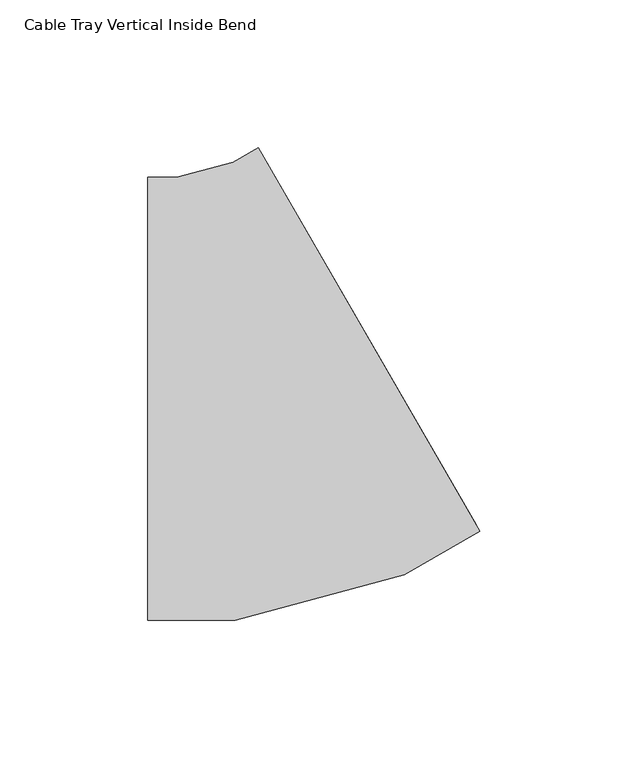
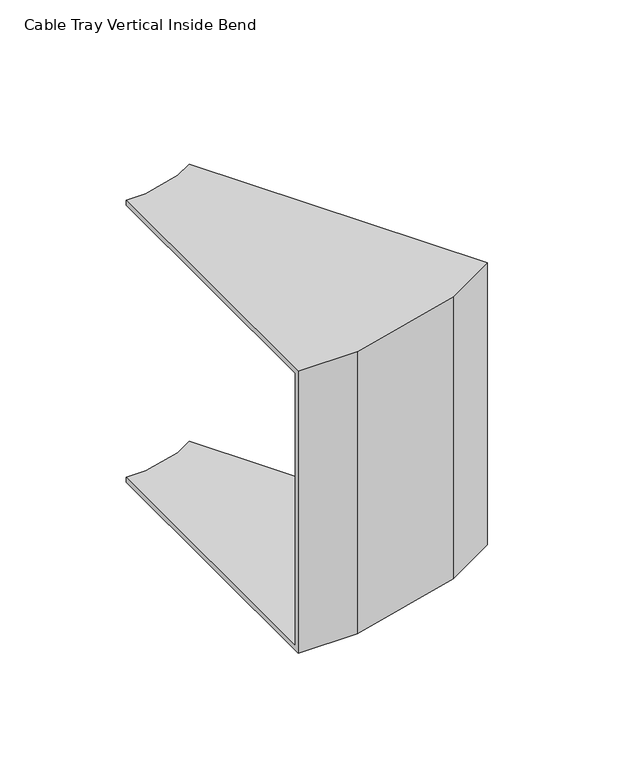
"""IFC4 building model written with IfcOpenShell, lengths in millimetres: cable carrier fitting geometry, Cable Tray Vertical Inside Bend : ELEC_ELV_TKG_N2402."""

from ifc_helpers import new_model, si_unit, origin, place, context, project, spatial, faceted_brep, source, transform, mapped, element, save


def cable_tray_vertical_inside_bend_b78f05e6(model_context):
    return source(origin(), model_context, "Body", "Brep", [
        faceted_brep([(-40.1923789, 75.0, 75.0), (-40.1923789, 75.0, 72.46), (-40.1923789, -72.46, 72.46), (-40.1923789, -72.46, -72.46), (-40.1923789, 75.0, -72.46), (-40.1923789, 75.0, -75.0), (-40.1923789, -75.0, -75.0), (-40.1923789, -75.0, 75.0), (-2.6923789, 85.0480947, 75.0), (72.3076211, -44.8557159, 75.0), (72.3076211, -44.8557159, -75.0), (-2.6923789, 85.0480947, -75.0), (-2.6923789, 85.0480947, -72.46), (71.0376211, -42.6560113, -72.46), (71.0376211, -42.6560113, 72.46), (-2.6923789, 85.0480947, 72.46), (-30.3184415, 75.0, 75.0), (-30.3184415, 75.0, 72.46), (-11.2434594, 80.1111261, 72.46), (45.6739761, -57.2997186, 72.46), (-10.9049643, -72.46, 72.46), (-10.9049643, -72.46, -72.46), (45.6739761, -57.2997186, -72.46), (-11.2434594, 80.1111261, -72.46), (-30.3184415, 75.0, -72.46), (-30.3184415, 75.0, -75.0), (-11.2434594, 80.1111261, -75.0), (46.6543795, -59.6666218, -75.0), (-10.5705669, -75.0, -75.0), (-10.5705669, -75.0, 75.0), (46.6543795, -59.6666218, 75.0), (-11.2434594, 80.1111261, 75.0)], [[[0, 1, 2, 3, 4, 5, 6, 7]], [[8, 9, 10, 11, 12, 13, 14, 15]], [[1, 0, 16, 17]], [[2, 1, 17, 18, 15, 14, 19, 20]], [[3, 2, 20, 21]], [[4, 3, 21, 22, 13, 12, 23, 24]], [[5, 4, 24, 25]], [[6, 5, 25, 26, 11, 10, 27, 28]], [[7, 6, 28, 29]], [[0, 7, 29, 30, 9, 8, 31, 16]], [[17, 16, 31, 18]], [[21, 20, 19, 22]], [[25, 24, 23, 26]], [[29, 28, 27, 30]], [[18, 31, 8, 15]], [[22, 19, 14, 13]], [[26, 23, 12, 11]], [[30, 27, 10, 9]]]),
    ])


if __name__ == "__main__":
    model = new_model("IFC4")
    model_context = context("Model", 3, world=origin())
    ifc_project = project(units=[si_unit("LENGTHUNIT", "METRE", prefix="MILLI")], contexts=[model_context])
    site = spatial("IfcSite", under=ifc_project)
    building = spatial("IfcBuilding", under=site)
    placement = place(None, origin())
    cable_tray_vertical_inside_bend_shape = cable_tray_vertical_inside_bend_b78f05e6(model_context)
    element("IfcCableCarrierFitting", 1, ObjectType="Cable Tray Vertical Inside Bend : ELEC_ELV_TKG_N2402", at=placement, inside=building, context=model_context, shape_type="MappedRepresentation", body=[
        mapped(cable_tray_vertical_inside_bend_shape, transform((0.0, 0.0, 0.0), x_axis=(1.0, 0.0, 0.0), y_axis=(0.0, 1.0, 0.0), z_axis=(0.0, 0.0, 1.0))),
    ])
    save(model, "model.ifc")
